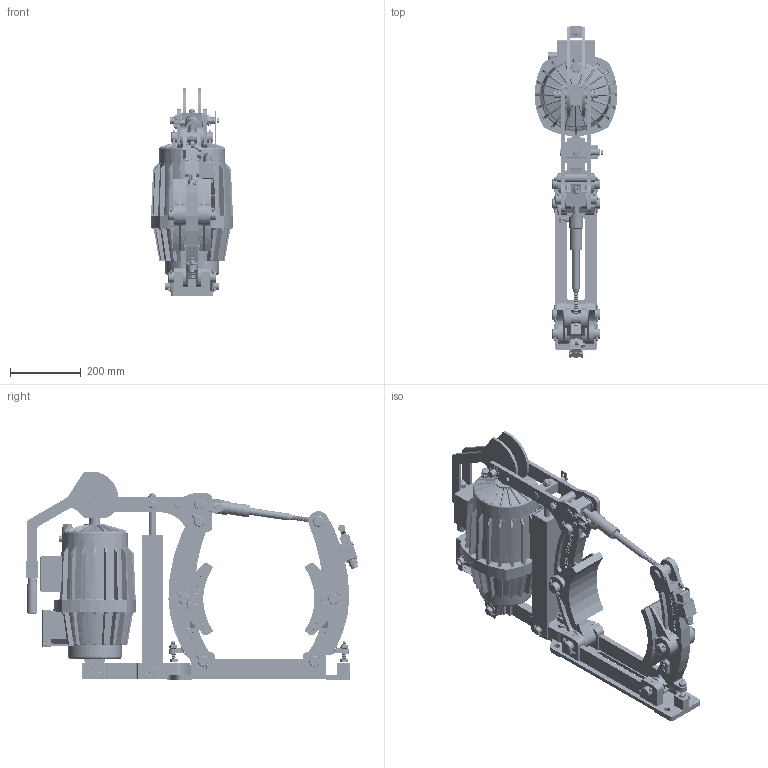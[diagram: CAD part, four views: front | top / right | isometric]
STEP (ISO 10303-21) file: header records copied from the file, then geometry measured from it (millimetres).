
FILE_DESCRIPTION((''),'2;1');
FILE_NAME('4459_314_510_E00001','2018-01-31T',('VORO'),(''),'CREO PARAMETRIC BY PTC INC, 2017170','CREO PARAMETRIC BY PTC INC, 2017170','');
FILE_SCHEMA(('CONFIG_CONTROL_DESIGN'));
Products named in the file (1): 4459_314_510_E00001
Bounding box: 234 x 939.59 x 590.6 mm (x, y, z)
Surface area: 2361934.8 mm2 (no closed solid volume)
Topology: 0 solids, 5172 shells, 5677 faces, 36038 edges, 34979 vertices
Faces by surface type: plane 2822, cylinder 2041, cone 599, torus 199, bspline 16
Entity records: 588517 total; most frequent: CARTESIAN_POINT 160959, PRESENTATION_STYLE_ASSIGNMENT 46868, DIRECTION 41417, STYLED_ITEM 41192, ORIENTED_EDGE 37067, CURVE_STYLE 36020, EDGE_CURVE 36020, VERTEX_POINT 34985
